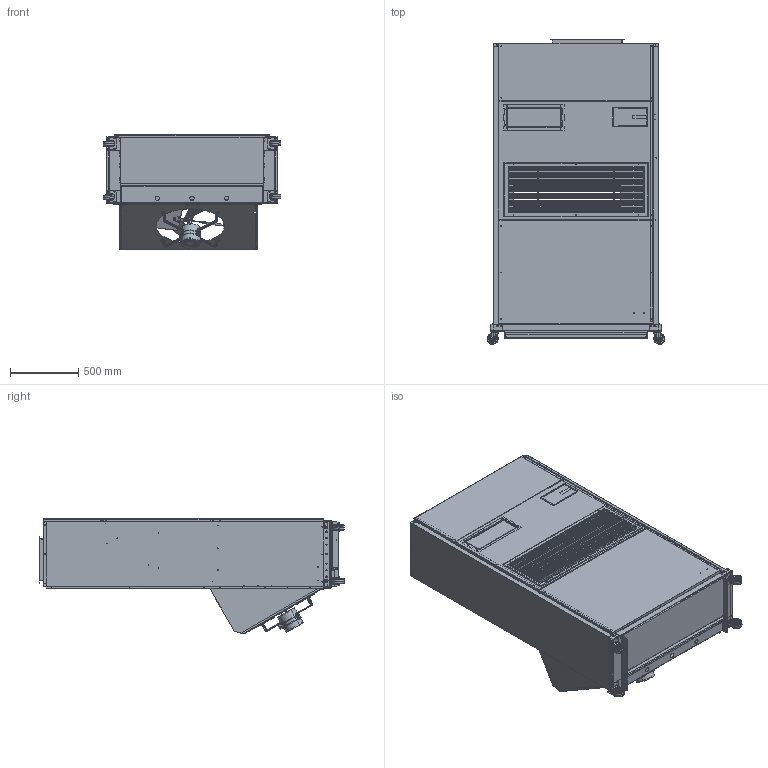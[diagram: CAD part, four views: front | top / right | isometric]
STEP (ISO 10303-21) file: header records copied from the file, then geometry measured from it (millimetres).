
FILE_DESCRIPTION (( 'STEP AP203' ), '1' );
FILE_NAME ('STEP_2000.STEP', '2016-07-12T18:24:45', ( 'BMC' ), ( 'Bard Manufacturing Co., Inc.' ), 'SwSTEP 2.0', 'SolidWorks 2016', '' );
FILE_SCHEMA (( 'CONFIG_CONTROL_DESIGN' ));
Length unit declared in the file: inch
Products named in the file (58): 8200-001c; 152-336; QH481 Base assembly_insulation_1; 5021-0985; 5030-010-0412; 108-149; wheel; 8200-001d; Part1^Q48H-Q60H; 152-333; 100-292; 1913-031-4100; 106-226; pin; 8200-001e; 1012-051, bolt; 152-334; 100-375; CAGE NUT; 110-044; bolt; 8200-001, outdoor motor mount_1; 1012-201; 152-335; 1012-086; CAGE NUT BODY; STEP_2000; nut; 1012-033,; 126-294; 1012-010; 7051-063 frame; 1012-087; 1012-217_1; 1171-052_1; 1012-210; 164-560; 1012-109,; Q48louver; 124-046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
Assembly tree (129 placements, depth 5):
  STEP_2000
    QH481 Base assembly_insulation_1
      126-294
      164-560  x2
      141-284_1  x2
        1171-052_1
          plate
          bearing
          yoke
          wheel
          pin
          bolt
          nut
        140-284
      134-198
      5030-010-0412  x2
      1913-031-4100
      1012-217_1  x4
        CAGE NUT
        CAGE NUT BODY
      112-253
      1913-035
      5021-0984
      5021-0985  x2
      100-292
      100-375
      1012-086  x19
      1012-087  x8
      124-046
      124-045
      124-041
    152-333
    152-334
    152-335
    Q48 RETURN GRILL_1
      7051-063 frame
      Q48louver  x26
    126-313
    152-336
    Part1^Q48H-Q60H
    400-0136_1
      1012-051, bolt  x4
      1012-201  x4
      1012-010
      1012-109,  x8
      8200-001, outdoor motor mount_1
        8200-001a
        8200-001b
        8200-001c
        8200-001d
        8200-001e
      1012-033,
      1012-210
    5151-050, cond. fan blade
    8103-013, motor
    108-149
    106-226
    110-044  x2
Bounding box: 1302.85 x 2234.06 x 850.47 mm (x, y, z)
Volume: 19551832.6 mm3; surface area: 21744561.6 mm2
Topology: 144 solids, 147 shells, 5189 faces, 13275 edges, 8479 vertices
Faces by surface type: plane 2238, cylinder 2071, cone 700, bspline 114, torus 66
Entity records: 115228 total; most frequent: CARTESIAN_POINT 25010, DIRECTION 17802, ORIENTED_EDGE 16580, EDGE_CURVE 8298, AXIS2_PLACEMENT_3D 6511, VERTEX_POINT 5349, LINE 4780, VECTOR 4780
